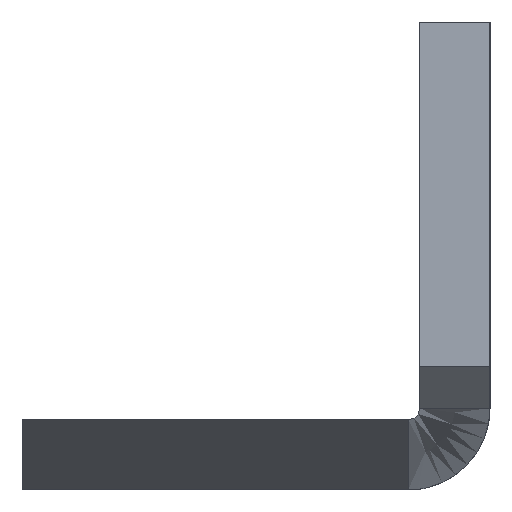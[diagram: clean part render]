
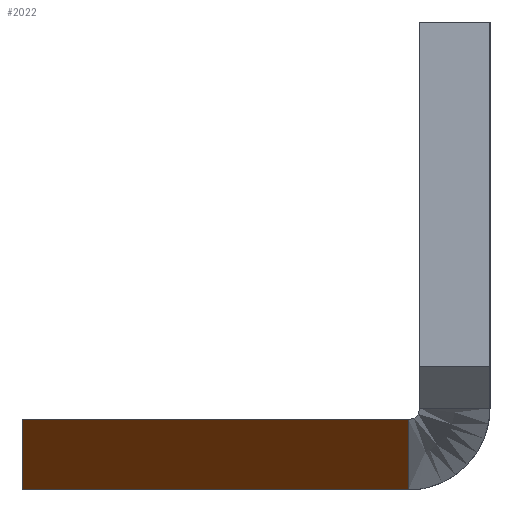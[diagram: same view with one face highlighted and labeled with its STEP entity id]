
A CAD part, left-side view. The second image highlights one B-rep face of the part: STEP entity #2022.
In plain terms, the highlighted planar face has unit normal (-0.447, 0.894, 0).
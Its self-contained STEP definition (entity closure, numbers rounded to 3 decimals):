
#126 = VECTOR ( 'NONE', #2961, 1000. ) ;
#152 = ORIENTED_EDGE ( 'NONE', *, *, #2063, .F. ) ;
#175 = CARTESIAN_POINT ( 'NONE',  ( -343., 0.5, -20. ) ) ;
#451 = CARTESIAN_POINT ( 'NONE',  ( -310., 17., -17. ) ) ;
#498 = CARTESIAN_POINT ( 'NONE',  ( -350., -3., -17. ) ) ;
#507 = DIRECTION ( 'NONE',  ( -0.894, -0.447, 0. ) ) ;
#520 = PLANE ( 'NONE',  #2348 ) ;
#610 = B_SPLINE_CURVE_WITH_KNOTS ( 'NONE', 1,
 ( #2972, #764 ),
 .UNSPECIFIED., .F., .F.,
 ( 2, 2 ),
 ( 0., 1. ),
 .UNSPECIFIED. ) ;
#635 = VECTOR ( 'NONE', #2280, 1000. ) ;
#651 = EDGE_CURVE ( 'NONE', #1725, #2928, #2013, .T. ) ;
#764 = CARTESIAN_POINT ( 'NONE',  ( -343., 0.5, -20. ) ) ;
#809 = CARTESIAN_POINT ( 'NONE',  ( -350., -3., -20. ) ) ;
#1025 = CARTESIAN_POINT ( 'NONE',  ( -350., -3., -20. ) ) ;
#1083 = EDGE_CURVE ( 'NONE', #2567, #2043, #2495, .T. ) ;
#1099 = ORIENTED_EDGE ( 'NONE', *, *, #651, .T. ) ;
#1395 = DIRECTION ( 'NONE',  ( 0., 0., 1. ) ) ;
#1494 = CARTESIAN_POINT ( 'NONE',  ( -343., 0.5, -17. ) ) ;
#1524 = DIRECTION ( 'NONE',  ( -0.447, 0.894, 0. ) ) ;
#1593 = LINE ( 'NONE', #2852, #2199 ) ;
#1725 = VERTEX_POINT ( 'NONE', #3104 ) ;
#1840 = ORIENTED_EDGE ( 'NONE', *, *, #2498, .F. ) ;
#2013 = LINE ( 'NONE', #809, #635 ) ;
#2022 = ADVANCED_FACE ( 'NONE', ( #2719 ), #520, .T. ) ;
#2043 = VERTEX_POINT ( 'NONE', #1494 ) ;
#2063 = EDGE_CURVE ( 'NONE', #2043, #2928, #610, .T. ) ;
#2199 = VECTOR ( 'NONE', #1395, 1000. ) ;
#2280 = DIRECTION ( 'NONE',  ( -0.894, -0.447, 0. ) ) ;
#2348 = AXIS2_PLACEMENT_3D ( 'NONE', #1025, #1524, #507 ) ;
#2495 = LINE ( 'NONE', #498, #126 ) ;
#2498 = EDGE_CURVE ( 'NONE', #1725, #2567, #1593, .T. ) ;
#2567 = VERTEX_POINT ( 'NONE', #451 ) ;
#2619 = ORIENTED_EDGE ( 'NONE', *, *, #1083, .F. ) ;
#2719 = FACE_OUTER_BOUND ( 'NONE', #3158, .T. ) ;
#2852 = CARTESIAN_POINT ( 'NONE',  ( -310., 17., -20. ) ) ;
#2928 = VERTEX_POINT ( 'NONE', #175 ) ;
#2961 = DIRECTION ( 'NONE',  ( -0.894, -0.447, 0. ) ) ;
#2972 = CARTESIAN_POINT ( 'NONE',  ( -343., 0.5, -17. ) ) ;
#3104 = CARTESIAN_POINT ( 'NONE',  ( -310., 17., -20. ) ) ;
#3158 = EDGE_LOOP ( 'NONE', ( #152, #2619, #1840, #1099 ) ) ;
